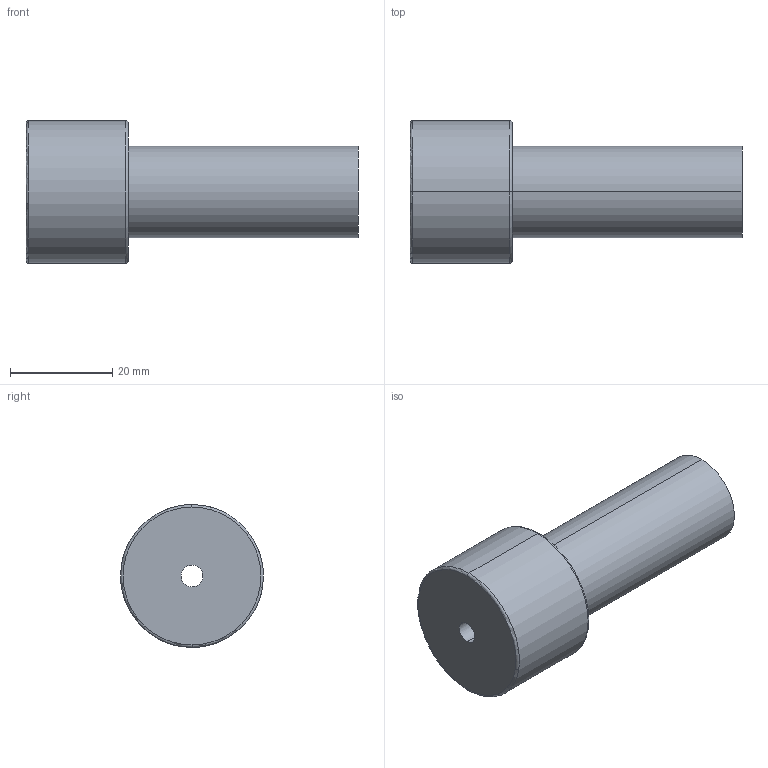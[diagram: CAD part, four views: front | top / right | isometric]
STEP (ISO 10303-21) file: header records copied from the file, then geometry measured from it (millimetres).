
FILE_DESCRIPTION(('CATIA V5 STEP Exchange'),'2;1');
FILE_NAME('C:\Users\Utente\Desktop\IO LAVORO\3D X SITO CF\X SITO\PLASTICA\3D files 367\367F-18X65.stp','2021-03-24T16:17:20+00:00',('none'),('none'),'CATIA Version 5 Release 20 GA (IN-10)','CATIA V5 STEP AP203','none');
FILE_SCHEMA(('CONFIG_CONTROL_DESIGN'));
Length unit declared in the file: millimetre
Products named in the file (1): 367F-18X65
Bounding box: 65 x 28 x 28 mm (x, y, z)
Volume: 21868.4 mm3; surface area: 6662.4 mm2
Topology: 1 solids, 1 shells, 13 faces, 42 edges, 32 vertices
Faces by surface type: torus 4, cylinder 4, plane 3, cone 2
Entity records: 614 total; most frequent: CARTESIAN_POINT 200, ORIENTED_EDGE 84, DIRECTION 60, AXIS2_PLACEMENT_3D 42, EDGE_CURVE 42, VERTEX_POINT 32, CIRCLE 28, EDGE_LOOP 16
